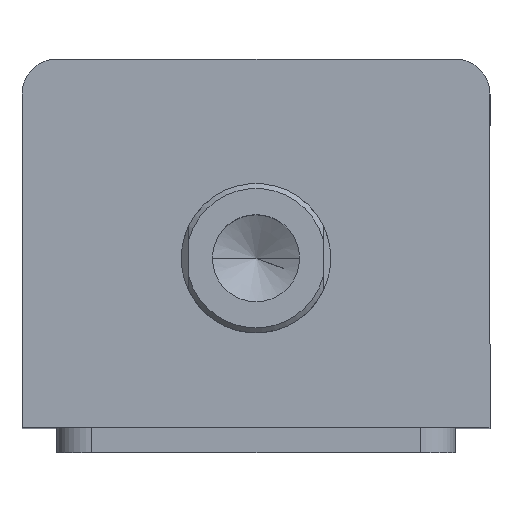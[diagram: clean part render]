
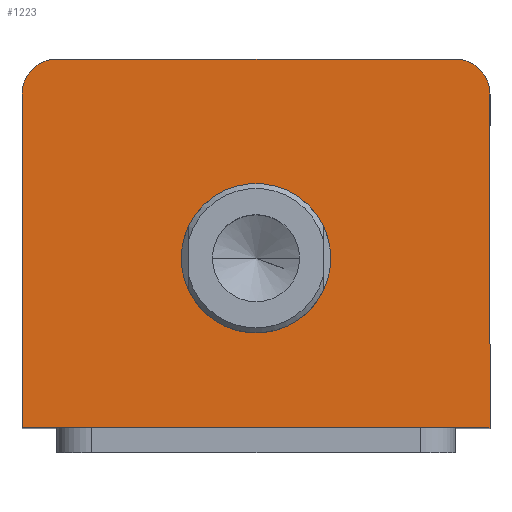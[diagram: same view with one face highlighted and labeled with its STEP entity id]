
A CAD part, top view. The second image highlights one B-rep face of the part: STEP entity #1223.
In plain terms, the highlighted planar face has unit normal (0, 0, 1).
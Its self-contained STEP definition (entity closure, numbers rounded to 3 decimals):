
#13 = AXIS2_PLACEMENT_3D ( 'NONE', #817, #815, #814 ) ;
#87 = ORIENTED_EDGE ( 'NONE', *, *, #1587, .T. ) ;
#138 = FACE_OUTER_BOUND ( 'NONE', #1608, .T. ) ;
#140 = FACE_BOUND ( 'NONE', #1936, .T. ) ;
#263 = CIRCLE ( 'NONE', #1370, 15. ) ;
#285 = LINE ( 'NONE', #786, #290 ) ;
#290 = VECTOR ( 'NONE', #1164, 1000. ) ;
#326 = LINE ( 'NONE', #1096, #329 ) ;
#329 = VECTOR ( 'NONE', #1095, 1000. ) ;
#536 = LINE ( 'NONE', #1018, #539 ) ;
#539 = VECTOR ( 'NONE', #1015, 1000. ) ;
#547 = CIRCLE ( 'NONE', #13, 7. ) ;
#551 = CIRCLE ( 'NONE', #1358, 7. ) ;
#567 = LINE ( 'NONE', #2697, #570 ) ;
#570 = VECTOR ( 'NONE', #2692, 1000. ) ;
#593 = CIRCLE ( 'NONE', #1352, 15. ) ;
#778 = DIRECTION ( 'NONE',  ( 1., 0., 0. ) ) ;
#782 = DIRECTION ( 'NONE',  ( 0., 0., 1. ) ) ;
#784 = CARTESIAN_POINT ( 'NONE',  ( -40., 30., 140. ) ) ;
#786 = CARTESIAN_POINT ( 'NONE',  ( -47., -37., 140. ) ) ;
#814 = DIRECTION ( 'NONE',  ( 1., 0., 0. ) ) ;
#815 = DIRECTION ( 'NONE',  ( 0., 0., 1. ) ) ;
#817 = CARTESIAN_POINT ( 'NONE',  ( 40., 30., 140. ) ) ;
#860 = CARTESIAN_POINT ( 'NONE',  ( -47., 30., 140. ) ) ;
#868 = CARTESIAN_POINT ( 'NONE',  ( 40., 37., 140. ) ) ;
#871 = CARTESIAN_POINT ( 'NONE',  ( 0., -3., 140. ) ) ;
#879 = DIRECTION ( 'NONE',  ( 0., 0., 1. ) ) ;
#880 = CARTESIAN_POINT ( 'NONE',  ( -40., 37., 140. ) ) ;
#901 = DIRECTION ( 'NONE',  ( 1., 0., 0. ) ) ;
#955 = CARTESIAN_POINT ( 'NONE',  ( -15., -3., 140. ) ) ;
#957 = CARTESIAN_POINT ( 'NONE',  ( 15., -3., 140. ) ) ;
#976 = CARTESIAN_POINT ( 'NONE',  ( -47., -37., 140. ) ) ;
#987 = CARTESIAN_POINT ( 'NONE',  ( 47., -37., 140. ) ) ;
#1009 = CARTESIAN_POINT ( 'NONE',  ( 47., 30., 140. ) ) ;
#1015 = DIRECTION ( 'NONE',  ( -1., 0., 0. ) ) ;
#1018 = CARTESIAN_POINT ( 'NONE',  ( -47., 37., 140. ) ) ;
#1095 = DIRECTION ( 'NONE',  ( 0., 1., 0. ) ) ;
#1096 = CARTESIAN_POINT ( 'NONE',  ( 47., 37., 140. ) ) ;
#1164 = DIRECTION ( 'NONE',  ( 1., 0., 0. ) ) ;
#1223 = ADVANCED_FACE ( 'NONE', ( #140, #138 ), #1799, .T. ) ;
#1352 = AXIS2_PLACEMENT_3D ( 'NONE', #2597, #2595, #2609 ) ;
#1358 = AXIS2_PLACEMENT_3D ( 'NONE', #784, #782, #778 ) ;
#1370 = AXIS2_PLACEMENT_3D ( 'NONE', #871, #879, #901 ) ;
#1454 = AXIS2_PLACEMENT_3D ( 'NONE', #1806, #1797, #1796 ) ;
#1530 = EDGE_CURVE ( 'NONE', #1978, #1977, #263, .T. ) ;
#1546 = EDGE_CURVE ( 'NONE', #1963, #1956, #285, .T. ) ;
#1567 = EDGE_CURVE ( 'NONE', #1956, #1937, #326, .T. ) ;
#1587 = EDGE_CURVE ( 'NONE', #2078, #2070, #536, .T. ) ;
#1608 = EDGE_LOOP ( 'NONE', ( #87, #2298, #2358, #2336, #2339, #2325 ) ) ;
#1796 = DIRECTION ( 'NONE',  ( 1., 0., 0. ) ) ;
#1797 = DIRECTION ( 'NONE',  ( 0., 0., 1. ) ) ;
#1799 = PLANE ( 'NONE',  #1454 ) ;
#1806 = CARTESIAN_POINT ( 'NONE',  ( 0., 0., 140. ) ) ;
#1936 = EDGE_LOOP ( 'NONE', ( #2247, #2323 ) ) ;
#1937 = VERTEX_POINT ( 'NONE', #1009 ) ;
#1956 = VERTEX_POINT ( 'NONE', #987 ) ;
#1963 = VERTEX_POINT ( 'NONE', #976 ) ;
#1977 = VERTEX_POINT ( 'NONE', #957 ) ;
#1978 = VERTEX_POINT ( 'NONE', #955 ) ;
#2070 = VERTEX_POINT ( 'NONE', #880 ) ;
#2078 = VERTEX_POINT ( 'NONE', #868 ) ;
#2086 = VERTEX_POINT ( 'NONE', #860 ) ;
#2247 = ORIENTED_EDGE ( 'NONE', *, *, #2779, .F. ) ;
#2298 = ORIENTED_EDGE ( 'NONE', *, *, #2757, .T. ) ;
#2323 = ORIENTED_EDGE ( 'NONE', *, *, #1530, .F. ) ;
#2325 = ORIENTED_EDGE ( 'NONE', *, *, #2749, .T. ) ;
#2336 = ORIENTED_EDGE ( 'NONE', *, *, #1546, .T. ) ;
#2339 = ORIENTED_EDGE ( 'NONE', *, *, #1567, .T. ) ;
#2358 = ORIENTED_EDGE ( 'NONE', *, *, #2766, .T. ) ;
#2595 = DIRECTION ( 'NONE',  ( 0., 0., 1. ) ) ;
#2597 = CARTESIAN_POINT ( 'NONE',  ( 0., -3., 140. ) ) ;
#2609 = DIRECTION ( 'NONE',  ( 1., 0., 0. ) ) ;
#2692 = DIRECTION ( 'NONE',  ( 0., -1., 0. ) ) ;
#2697 = CARTESIAN_POINT ( 'NONE',  ( -47., 37., 140. ) ) ;
#2749 = EDGE_CURVE ( 'NONE', #1937, #2078, #547, .T. ) ;
#2757 = EDGE_CURVE ( 'NONE', #2070, #2086, #551, .T. ) ;
#2766 = EDGE_CURVE ( 'NONE', #2086, #1963, #567, .T. ) ;
#2779 = EDGE_CURVE ( 'NONE', #1977, #1978, #593, .T. ) ;
